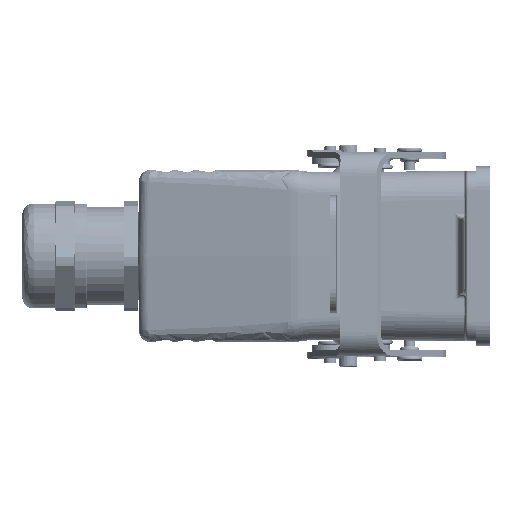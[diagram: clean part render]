
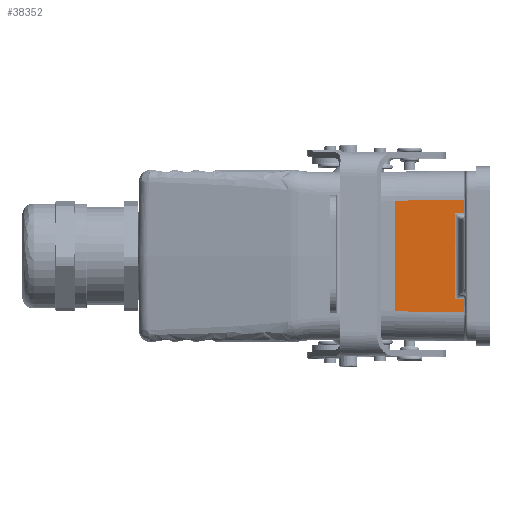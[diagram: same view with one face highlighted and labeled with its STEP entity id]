
A CAD part, left-side view. The second image highlights one B-rep face of the part: STEP entity #38352.
In plain terms, the highlighted planar face has unit normal (-1, 0.014, 0).
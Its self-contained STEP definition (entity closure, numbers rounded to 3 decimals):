
#259 = LINE ( 'NONE', #115676, #186014 ) ;
#4802 = EDGE_CURVE ( 'NONE', #141092, #102527, #179016, .T. ) ;
#6510 = DIRECTION ( 'NONE',  ( 0., 0., 1. ) ) ;
#6644 = CARTESIAN_POINT ( 'NONE',  ( -36.75, 22.2, 10.869 ) ) ;
#7005 = CARTESIAN_POINT ( 'NONE',  ( -36.994, 4.693, -23.758 ) ) ;
#11339 = DIRECTION ( 'NONE',  ( 0., 0., 1. ) ) ;
#12817 = VECTOR ( 'NONE', #108130, 1000. ) ;
#15070 = EDGE_CURVE ( 'NONE', #102527, #59264, #129519, .T. ) ;
#23035 = CARTESIAN_POINT ( 'NONE',  ( -36.75, 22.2, -23.758 ) ) ;
#27334 = CARTESIAN_POINT ( 'NONE',  ( -36.75, 22.2, -14.101 ) ) ;
#29611 = EDGE_CURVE ( 'NONE', #59264, #109597, #259, .T. ) ;
#38352 = ADVANCED_FACE ( 'NONE', ( #125588 ), #141102, .T. ) ;
#40928 = ORIENTED_EDGE ( 'NONE', *, *, #29611, .T. ) ;
#44338 = VECTOR ( 'NONE', #11339, 1000. ) ;
#47183 = CARTESIAN_POINT ( 'NONE',  ( -36.994, 4.693, -14.345 ) ) ;
#51831 = CARTESIAN_POINT ( 'NONE',  ( -36.75, 22.2, 14.101 ) ) ;
#59264 = VERTEX_POINT ( 'NONE', #164642 ) ;
#59513 = DIRECTION ( 'NONE',  ( -0.014, -1., 0. ) ) ;
#60576 = VECTOR ( 'NONE', #147217, 1000. ) ;
#66355 = ORIENTED_EDGE ( 'NONE', *, *, #216629, .F. ) ;
#81479 = DIRECTION ( 'NONE',  ( 0., 0., 1. ) ) ;
#82273 = VERTEX_POINT ( 'NONE', #150126 ) ;
#84783 = VERTEX_POINT ( 'NONE', #194018 ) ;
#85761 = B_SPLINE_CURVE_WITH_KNOTS ( 'NONE', 3,
 ( #51831, #102554, #169883, #137848 ),
 .UNSPECIFIED., .F., .F.,
 ( 4, 4 ),
 ( 0., 1. ),
 .UNSPECIFIED. ) ;
#87684 = ORIENTED_EDGE ( 'NONE', *, *, #196793, .T. ) ;
#102527 = VERTEX_POINT ( 'NONE', #124400 ) ;
#102554 = CARTESIAN_POINT ( 'NONE',  ( -36.831, 16.364, 14.182 ) ) ;
#106675 = EDGE_CURVE ( 'NONE', #135626, #84783, #124675, .T. ) ;
#108130 = DIRECTION ( 'NONE',  ( 0., 0., 1. ) ) ;
#109597 = VERTEX_POINT ( 'NONE', #174699 ) ;
#115676 = CARTESIAN_POINT ( 'NONE',  ( -36.964, 6.853, -23.758 ) ) ;
#118707 = ORIENTED_EDGE ( 'NONE', *, *, #106675, .F. ) ;
#122481 = CARTESIAN_POINT ( 'NONE',  ( -36.75, 22.2, 0. ) ) ;
#122553 = EDGE_CURVE ( 'NONE', #82273, #191029, #137161, .T. ) ;
#124400 = CARTESIAN_POINT ( 'NONE',  ( -36.994, 4.693, -10.869 ) ) ;
#124675 = LINE ( 'NONE', #122481, #12817 ) ;
#125588 = FACE_OUTER_BOUND ( 'NONE', #140007, .T. ) ;
#126105 = EDGE_CURVE ( 'NONE', #84783, #191029, #85761, .T. ) ;
#128328 = VECTOR ( 'NONE', #59513, 1000. ) ;
#128424 = CARTESIAN_POINT ( 'NONE',  ( -36.75, 22.2, -10.869 ) ) ;
#129519 = LINE ( 'NONE', #128424, #60576 ) ;
#132115 = CARTESIAN_POINT ( 'NONE',  ( -36.831, 16.364, -14.182 ) ) ;
#134510 = ORIENTED_EDGE ( 'NONE', *, *, #122553, .T. ) ;
#135003 = CARTESIAN_POINT ( 'NONE',  ( -36.994, 4.693, -23.758 ) ) ;
#135626 = VERTEX_POINT ( 'NONE', #201781 ) ;
#137161 = LINE ( 'NONE', #135003, #175897 ) ;
#137848 = CARTESIAN_POINT ( 'NONE',  ( -36.994, 4.693, 14.345 ) ) ;
#138256 = DIRECTION ( 'NONE',  ( 0., 0., 1. ) ) ;
#140007 = EDGE_LOOP ( 'NONE', ( #211306, #118707, #66355, #187297, #208392, #40928, #87684, #134510 ) ) ;
#141092 = VERTEX_POINT ( 'NONE', #205911 ) ;
#141102 = PLANE ( 'NONE',  #193697 ) ;
#143382 = LINE ( 'NONE', #6644, #128328 ) ;
#147217 = DIRECTION ( 'NONE',  ( 0.014, 1., 0. ) ) ;
#150126 = CARTESIAN_POINT ( 'NONE',  ( -36.994, 4.693, 10.869 ) ) ;
#157658 = DIRECTION ( 'NONE',  ( -1., 0.014, 0. ) ) ;
#164642 = CARTESIAN_POINT ( 'NONE',  ( -36.964, 6.853, -10.869 ) ) ;
#169883 = CARTESIAN_POINT ( 'NONE',  ( -36.913, 10.529, 14.264 ) ) ;
#174699 = CARTESIAN_POINT ( 'NONE',  ( -36.964, 6.853, 10.869 ) ) ;
#174955 = CARTESIAN_POINT ( 'NONE',  ( -36.994, 4.693, 14.345 ) ) ;
#175897 = VECTOR ( 'NONE', #138256, 1000. ) ;
#179016 = LINE ( 'NONE', #7005, #44338 ) ;
#181772 = CARTESIAN_POINT ( 'NONE',  ( -36.913, 10.529, -14.264 ) ) ;
#186014 = VECTOR ( 'NONE', #81479, 1000. ) ;
#187297 = ORIENTED_EDGE ( 'NONE', *, *, #4802, .T. ) ;
#191029 = VERTEX_POINT ( 'NONE', #174955 ) ;
#191445 = B_SPLINE_CURVE_WITH_KNOTS ( 'NONE', 3,
 ( #47183, #181772, #132115, #27334 ),
 .UNSPECIFIED., .F., .F.,
 ( 4, 4 ),
 ( 0., 1. ),
 .UNSPECIFIED. ) ;
#193697 = AXIS2_PLACEMENT_3D ( 'NONE', #23035, #157658, #6510 ) ;
#194018 = CARTESIAN_POINT ( 'NONE',  ( -36.75, 22.2, 14.101 ) ) ;
#196793 = EDGE_CURVE ( 'NONE', #109597, #82273, #143382, .T. ) ;
#201781 = CARTESIAN_POINT ( 'NONE',  ( -36.75, 22.2, -14.101 ) ) ;
#205911 = CARTESIAN_POINT ( 'NONE',  ( -36.994, 4.693, -14.345 ) ) ;
#208392 = ORIENTED_EDGE ( 'NONE', *, *, #15070, .T. ) ;
#211306 = ORIENTED_EDGE ( 'NONE', *, *, #126105, .F. ) ;
#216629 = EDGE_CURVE ( 'NONE', #141092, #135626, #191445, .T. ) ;
